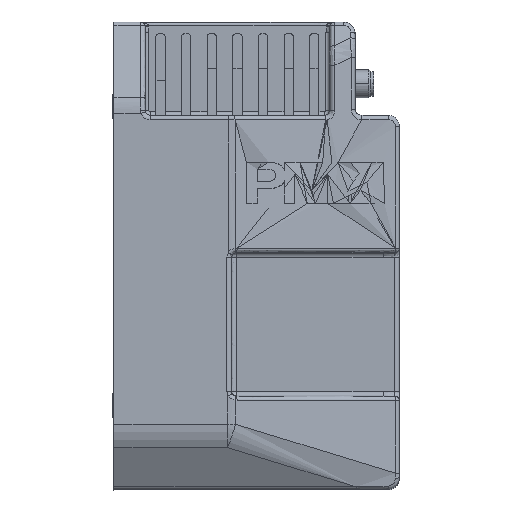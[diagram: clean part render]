
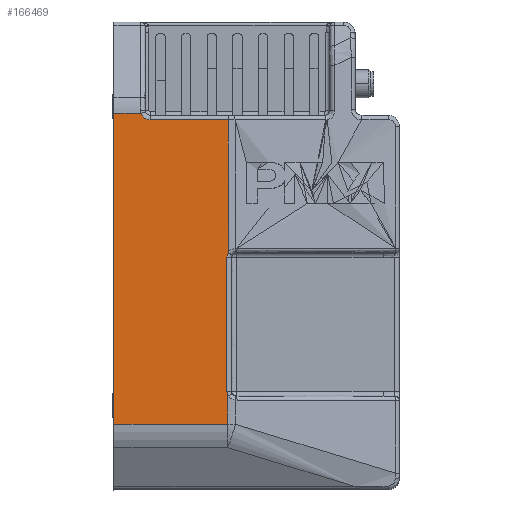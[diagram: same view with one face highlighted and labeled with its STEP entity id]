
A CAD part, top view. The second image highlights one B-rep face of the part: STEP entity #166469.
In plain terms, the highlighted free-form (B-spline) face has degree [1, 1] with [2, 2] control points.
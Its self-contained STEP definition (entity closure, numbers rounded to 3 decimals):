
#152542=DIRECTION('',(0.,-1.,0.));
#152543=VECTOR('',#152542,33.5);
#152544=CARTESIAN_POINT('',(20.,48.5,158.5));
#152545=LINE('',#152544,#152543);
#152549=DIRECTION('',(0.,0.,1.));
#152550=VECTOR('',#152549,57.064);
#152551=CARTESIAN_POINT('',(20.,48.5,
101.436));
#152552=LINE('',#152551,#152550);
#152556=CARTESIAN_POINT('',(20.,52.,99.5));
#152557=DIRECTION('',(1.,0.,0.));
#152558=DIRECTION('',(0.,-0.875,0.484));
#152559=AXIS2_PLACEMENT_3D('',#152556,#152557,#152558);
#152564=DIRECTION('',(0.,0.,-1.));
#152565=VECTOR('',#152564,57.5);
#152566=CARTESIAN_POINT('',(20.,48.,99.5));
#152567=LINE('',#152566,#152565);
#152571=CARTESIAN_POINT('',(20.,52.,42.));
#152572=DIRECTION('',(1.,0.,0.));
#152573=DIRECTION('',(0.,-1.,0.));
#152574=AXIS2_PLACEMENT_3D('',#152571,#152572,#152573);
#152579=DIRECTION('',(0.,0.,1.));
#152580=VECTOR('',#152579,12.732);
#152581=CARTESIAN_POINT('',(20.,48.25,27.876));
#152582=LINE('',#152581,#152580);
#152586=DIRECTION('',(0.,1.,0.));
#152587=VECTOR('',#152586,48.75);
#152588=CARTESIAN_POINT('',(20.,-0.5,27.876));
#152589=LINE('',#152588,#152587);
#152593=DIRECTION('',(0.,1.,
0.));
#152594=VECTOR('',#152593,11.698);
#152595=CARTESIAN_POINT('',(20.,-0.5,161.256));
#152596=LINE('',#152595,#152594);
#152600=CARTESIAN_POINT('',(20.,15.,162.5));
#152601=DIRECTION('',(1.,0.,0.));
#152602=DIRECTION('',(0.,-0.95,-0.311));
#152603=AXIS2_PLACEMENT_3D('',#152600,#152601,#152602);
#152627=CARTESIAN_POINT('',(20.,48.5,158.5));
#152638=CARTESIAN_POINT('',(20.,48.5,
101.436));
#154022=DIRECTION('',(0.,0.,1.));
#154023=VECTOR('',#154022,133.381);
#154024=CARTESIAN_POINT('',(20.,-0.5,27.876));
#154025=LINE('',#154024,#154023);
#154150=CARTESIAN_POINT('',(20.,11.198,
161.256));
#154171=CARTESIAN_POINT('',(20.,48.25,40.607));
#161499=CARTESIAN_POINT('',(20.,48.,99.5));
#161500=CARTESIAN_POINT('',(20.,48.,42.));
#161501=VERTEX_POINT('',#161499);
#161502=VERTEX_POINT('',#161500);
#161509=VERTEX_POINT('',#152638);
#161515=CARTESIAN_POINT('',(20.,-0.5,27.876));
#161517=VERTEX_POINT('',#161515);
#161518=CARTESIAN_POINT('',(20.,-0.5,161.256));
#161520=VERTEX_POINT('',#161518);
#161522=VERTEX_POINT('',#154171);
#161528=CARTESIAN_POINT('',(20.,48.25,27.876));
#161529=VERTEX_POINT('',#161528);
#161648=VERTEX_POINT('',#152627);
#161652=CARTESIAN_POINT('',(20.,15.,158.5));
#161653=VERTEX_POINT('',#161652);
#161661=VERTEX_POINT('',#154150);
#166443=CARTESIAN_POINT('',(20.,-1.48,25.208));
#166444=CARTESIAN_POINT('',(20.,-1.48,163.924));
#166445=CARTESIAN_POINT('',(20.,49.48,25.208));
#166446=CARTESIAN_POINT('',(20.,49.48,163.924));
#166447=B_SPLINE_SURFACE_WITH_KNOTS('',1,1,((#166443,#166444),(#166445,
#166446)),.UNSPECIFIED.,.F.,.F.,.F.,(2,2),(2,2),(-1.48,49.48),(
25.208,163.924),.UNSPECIFIED.);
#166449=ORIENTED_EDGE('',*,*,#166448,.F.);
#166451=ORIENTED_EDGE('',*,*,#166450,.F.);
#166453=ORIENTED_EDGE('',*,*,#166452,.T.);
#166455=ORIENTED_EDGE('',*,*,#166454,.T.);
#166457=ORIENTED_EDGE('',*,*,#166456,.T.);
#166459=ORIENTED_EDGE('',*,*,#166458,.F.);
#166461=ORIENTED_EDGE('',*,*,#166460,.F.);
#166463=ORIENTED_EDGE('',*,*,#166462,.T.);
#166465=ORIENTED_EDGE('',*,*,#166464,.T.);
#166466=ORIENTED_EDGE('',*,*,#166434,.T.);
#166467=EDGE_LOOP('',(#166449,#166451,#166453,#166455,#166457,#166459,#166461,
#166463,#166465,#166466));
#166468=FACE_OUTER_BOUND('',#166467,.F.);
#166469=ADVANCED_FACE('',(#166468),#166447,.T.);
#152560=CIRCLE('',#152559,4.);
#152575=CIRCLE('',#152574,4.);
#152604=CIRCLE('',#152603,4.);
#166434=EDGE_CURVE('',#161661,#161653,#152604,.T.);
#166448=EDGE_CURVE('',#161648,#161653,#152545,.T.);
#166450=EDGE_CURVE('',#161509,#161648,#152552,.T.);
#166452=EDGE_CURVE('',#161509,#161501,#152560,.T.);
#166454=EDGE_CURVE('',#161501,#161502,#152567,.T.);
#166456=EDGE_CURVE('',#161502,#161522,#152575,.T.);
#166458=EDGE_CURVE('',#161529,#161522,#152582,.T.);
#166460=EDGE_CURVE('',#161517,#161529,#152589,.T.);
#166462=EDGE_CURVE('',#161517,#161520,#154025,.T.);
#166464=EDGE_CURVE('',#161520,#161661,#152596,.T.);
